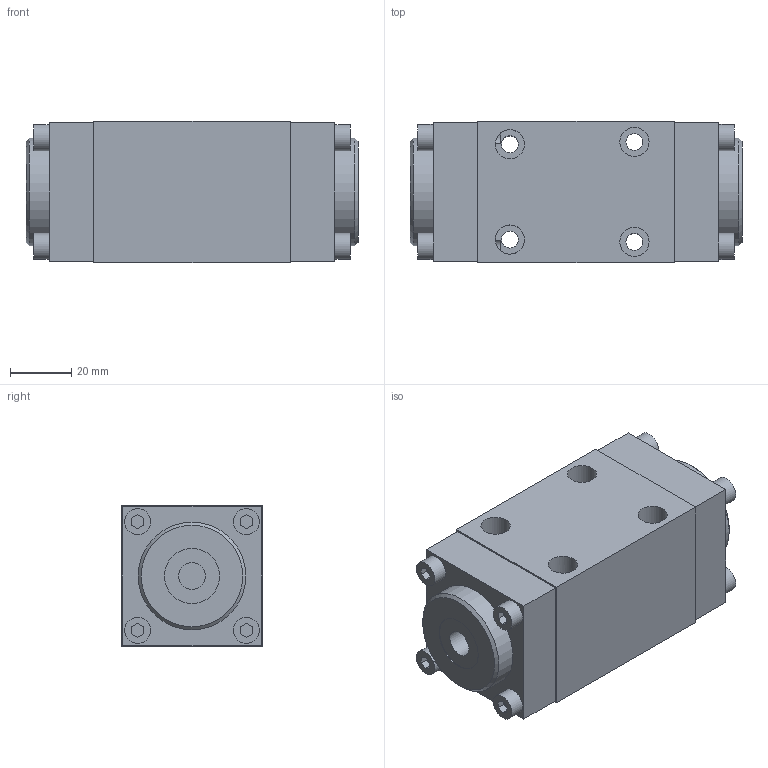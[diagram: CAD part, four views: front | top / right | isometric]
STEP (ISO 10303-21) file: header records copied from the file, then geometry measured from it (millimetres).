
FILE_DESCRIPTION(('Bauteilbeschreibung','HiCAD-Model','HiCAD-STEP-TRANSLATION','Bauteilbeschreibung'),'2;1');
FILE_NAME('D:/AP4_6.STP','2006-08-10T10:30:21+00:00',('Konstrukteur'),('Konstrukteur Firma GmbH'),'HiCAD3 V1210 STEP 1.6.2005','HiCAD3 V1210','confidential');
FILE_SCHEMA(('AUTOMOTIVE_DESIGN { 1 2 10303 214 0 1 1 1 }'));
Length unit declared in the file: millimetre
Products named in the file (18): AP4_6; AP406; AF8D6F1C; AB294FE8; F06D3D5F; F06D3D5F0; IN6KTM5; IN6KTM50; IN6KTM51; IN6KTM52; IN6KTM53; F06D3D5F1; F06D3D5F2; IN6KTM54; IN6KTM55; IN6KTM56; IN6KTM57; IN6KTM58
Assembly tree (17 placements, depth 6):
  AP4_6
    AP406
      AF8D6F1C
        AB294FE8
        F06D3D5F
        F06D3D5F0
          IN6KTM5
            IN6KTM50
            IN6KTM51
            IN6KTM52
            IN6KTM53
        F06D3D5F1
        F06D3D5F2
          IN6KTM54
            IN6KTM55
            IN6KTM56
            IN6KTM57
            IN6KTM58
Bounding box: 108 x 46 x 46 mm (x, y, z)
Volume: 198932.9 mm3; surface area: 39682.2 mm2
Topology: 11 solids, 11 shells, 156 faces, 350 edges, 242 vertices
Faces by surface type: plane 112, cylinder 42, cone 2
Full cylindrical faces by diameter (mm): 5 x8, 5.5 x12, 8.5 x8, 8.7 x2, 9.5 x4, 12.5 x4, 18 x2, 35 x2
Entity records: 7261 total; most frequent: CARTESIAN_POINT 930, DIRECTION 738, ORIENTED_EDGE 548, COLOUR_RGB 441, PRESENTATION_STYLE_ASSIGNMENT 441, OVER_RIDING_STYLED_ITEM 430, AXIS2_PLACEMENT_3D 276, CURVE_STYLE 274
